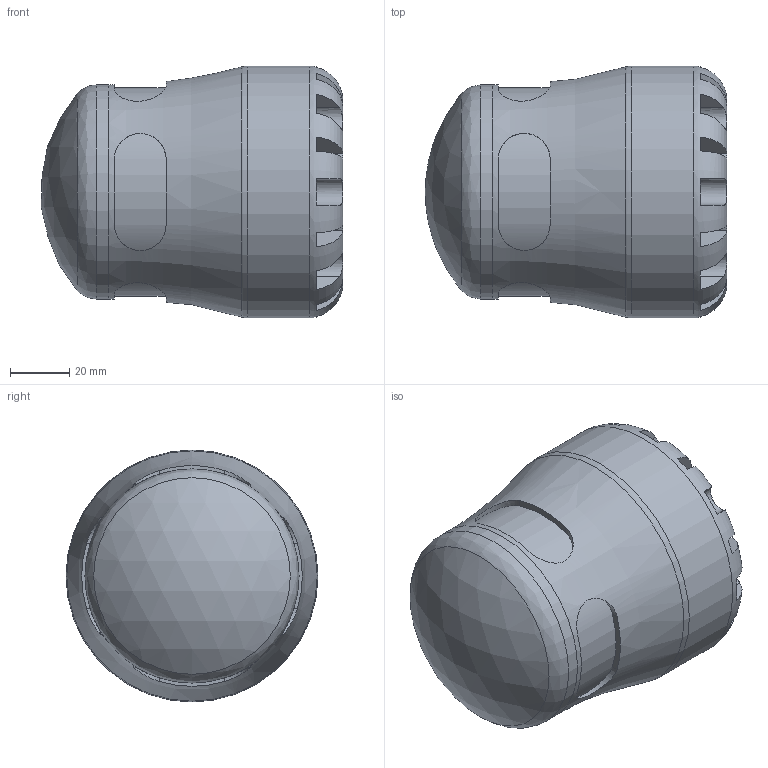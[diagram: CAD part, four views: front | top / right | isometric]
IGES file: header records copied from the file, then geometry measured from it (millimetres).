
Global section: file name: 101200050_191200050.ipt; native system: Autodesk Inventor 2015; preprocessor: unknown; author: KIM; date: 20170117.125126; units: millimetre
Bounding box: 101.74 x 85 x 85 mm (x, y, z)
Volume: 283620.9 mm3; surface area: 46401.2 mm2
Topology: 1 solids, 1 shells, 95 faces, 245 edges, 156 vertices
Faces by surface type: plane 57, revolution 23, cylinder 14, sphere 1
Full cylindrical faces by diameter (mm): 72.25 x1, 85 x1
